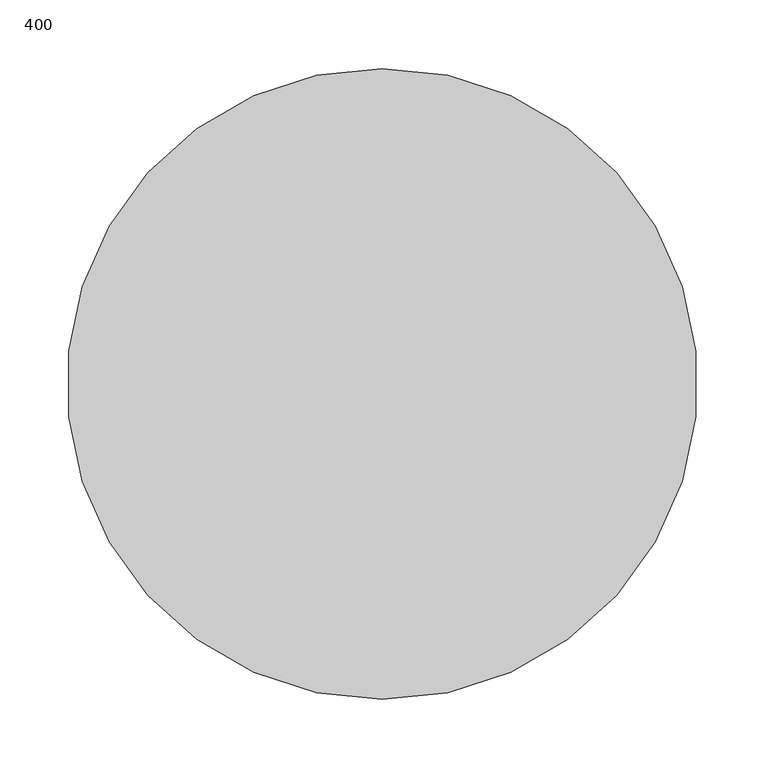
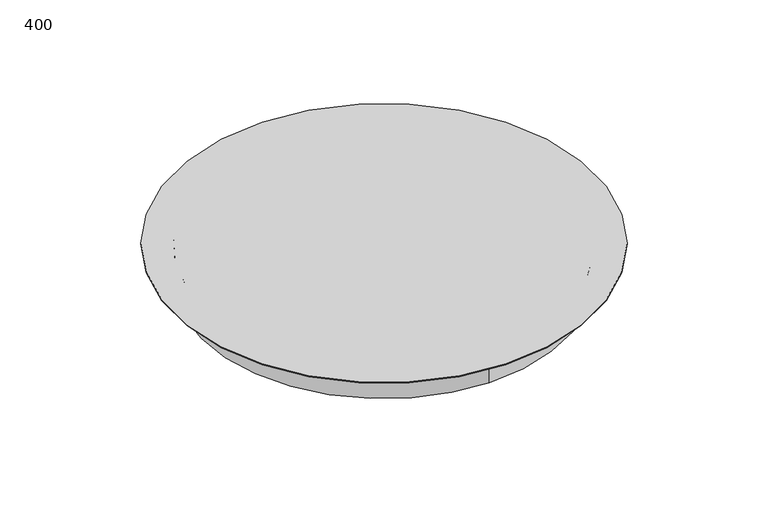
"""IFC4 building model written with IfcOpenShell, lengths in millimetres: duct fitting geometry, VE-Zagnieżdżone-Akcesorium-ParaForma-Harmann-DAF-Króciec_Przyłączeniowy : 400."""

import ifcopenshell
import ifcopenshell.guid

model = None  # the IFC model being written
_history = None  # IfcOwnerHistory: only IFC2X3 demands one
_inside = {}  # id of a spatial element -> (the spatial element, [elements in it])
_under = {}  # id of a project, library or spatial element -> (it, [spatial elements below it])
_declared = {}  # id of a project -> (the project, [libraries it declares])
_typed = {}  # id of a type object -> (the type object, [elements of that type])
_made_of = {}  # id of a material, layer set ... -> (it, [elements and type objects made of it])


def new_model(schema):
    """Start an empty IFC model of exactly this schema.

    Asked for "IFC4X3", IfcOpenShell would pick the latest addendum, in which some entities
    have other attributes; the version numbers below select the first issue.
    IFC2X3 requires an IfcOwnerHistory on every rooted entity: one is made here for all.
    """
    global model, _history
    if schema == "IFC4X3":
        model = ifcopenshell.file(schema_version=(4, 3, 0, 0))
    else:
        model = ifcopenshell.file(schema=schema)
    _inside.clear()
    _under.clear()
    _declared.clear()
    _typed.clear()
    _made_of.clear()
    _history = None
    if model.schema == "IFC2X3":
        org = make("IfcOrganization", Name="unknown")
        user = make(
            "IfcPersonAndOrganization",
            ThePerson=make("IfcPerson", FamilyName="unknown"),
            TheOrganization=org,
        )
        app = make(
            "IfcApplication",
            ApplicationDeveloper=org,
            Version="unknown",
            ApplicationFullName="unknown",
            ApplicationIdentifier="unknown",
        )
        _history = make(
            "IfcOwnerHistory",
            OwningUser=user,
            OwningApplication=app,
            ChangeAction="ADDED",
            CreationDate=0,
        )
    return model


def make(cls, **values):
    """One entity of the class cls with the attributes given. An attribute that is None is left unset."""
    return model.create_entity(
        cls, **{name: value for name, value in values.items() if value is not None}
    )


def rooted(cls, **values):
    """An entity with a GlobalId (a new one), such as an element, a storey or a relation."""
    return make(cls, GlobalId=ifcopenshell.guid.new(), OwnerHistory=_history, **values)


def si_unit(unit_type, name, prefix=None):
    """IfcSIUnit, for example si_unit("LENGTHUNIT", "METRE", prefix="MILLI")."""
    return make("IfcSIUnit", UnitType=unit_type, Prefix=prefix, Name=name)


def assignment(units):
    """IfcUnitAssignment: the units of a project."""
    return None if units is None else make("IfcUnitAssignment", Units=units)


def point(xyz):
    """IfcCartesianPoint."""
    return None if xyz is None else make("IfcCartesianPoint", Coordinates=xyz)


def direction(xyz):
    """IfcDirection."""
    return None if xyz is None else make("IfcDirection", DirectionRatios=xyz)


def frame(location, z_axis=None, x_axis=None):
    """IfcAxis2Placement3D, a coordinate frame: its origin and axes. An axis left out is left unset."""
    return make(
        "IfcAxis2Placement3D",
        Location=point(location),
        Axis=direction(z_axis),
        RefDirection=direction(x_axis),
    )


def frame_2d(location, x_axis=None):
    """IfcAxis2Placement2D, a coordinate frame in the plane: its origin and x axis."""
    return make(
        "IfcAxis2Placement2D", Location=point(location), RefDirection=direction(x_axis)
    )


def origin():
    """The frame at (0, 0, 0) with its axes left unset."""
    return frame((0.0, 0.0, 0.0))


def origin_2d():
    """The frame at (0, 0) in the plane with its x axis left unset."""
    return frame_2d((0.0, 0.0))


def place(relative_to, where):
    """IfcLocalPlacement: puts the frame where relative to a parent placement (None: the world)."""
    return make(
        "IfcLocalPlacement", PlacementRelTo=relative_to, RelativePlacement=where
    )


def context(
    kind, dimensions, precision=None, world=None, true_north=None, identifier=None
):
    """IfcGeometricRepresentationContext, for example the 3D "Model" context."""
    return make(
        "IfcGeometricRepresentationContext",
        ContextIdentifier=identifier,
        ContextType=kind,
        CoordinateSpaceDimension=dimensions,
        Precision=precision,
        WorldCoordinateSystem=world,
        TrueNorth=true_north,
    )


def project(units=None, contexts=None):
    """IfcProject with its units and contexts."""
    return rooted(
        "IfcProject",
        Name="project",
        RepresentationContexts=contexts,
        UnitsInContext=assignment(units),
    )


def spatial(cls, under=None, at=None, **own):
    """A site, building, storey or space (cls), placed at a placement, below another one or the project."""
    s = rooted(cls, ObjectPlacement=at, **own)
    if under is not None:
        _under.setdefault(under.id(), (under, []))[1].append(s)
    return s


def circle_curve(where, radius):
    """IfcCircle in the frame where."""
    return make("IfcCircle", Position=where, Radius=radius)


def trimmed(basis, trim1, trim2, sense, master):
    """IfcTrimmedCurve: the piece of a basis curve between two trims."""
    return make(
        "IfcTrimmedCurve",
        BasisCurve=basis,
        Trim1=trim1,
        Trim2=trim2,
        SenseAgreement=sense,
        MasterRepresentation=master,
    )


def segment(curve, same_sense, transition):
    """IfcCompositeCurveSegment."""
    return make(
        "IfcCompositeCurveSegment",
        Transition=transition,
        SameSense=same_sense,
        ParentCurve=curve,
    )


def composite_curve(segments, self_intersect=None):
    """IfcCompositeCurve: segments joined end to end."""
    return make("IfcCompositeCurve", Segments=segments, SelfIntersect=self_intersect)


def outline(outer, holes=None, kind="AREA"):
    """IfcArbitraryClosedProfileDef: a profile drawn as a closed curve; with holes, ...WithVoids."""
    if holes is None:
        return make("IfcArbitraryClosedProfileDef", ProfileType=kind, OuterCurve=outer)
    return make(
        "IfcArbitraryProfileDefWithVoids",
        ProfileType=kind,
        OuterCurve=outer,
        InnerCurves=holes,
    )


def extrude(swept, where, along, depth):
    """IfcExtrudedAreaSolid: the profile swept, set in the frame where, extruded along a direction by depth."""
    return make(
        "IfcExtrudedAreaSolid",
        SweptArea=swept,
        Position=where,
        ExtrudedDirection=direction(along),
        Depth=depth,
    )


def shape(context_of_items, identifier, shape_type, items):
    """IfcShapeRepresentation: the items that make up one representation, for example the "Body"."""
    return make(
        "IfcShapeRepresentation",
        ContextOfItems=context_of_items,
        RepresentationIdentifier=identifier,
        RepresentationType=shape_type,
        Items=items,
    )


def source(mapping_origin, context_of_items, identifier, shape_type, items):
    """IfcRepresentationMap: a shape defined once, which mapped items show again and again."""
    return make(
        "IfcRepresentationMap",
        MappingOrigin=mapping_origin,
        MappedRepresentation=shape(context_of_items, identifier, shape_type, items),
    )


def transform(
    local_origin,
    x_axis=None,
    y_axis=None,
    z_axis=None,
    scale=None,
    scale2=None,
    scale3=None,
    uniform=True,
):
    """IfcCartesianTransformationOperator3D, or its non-uniform kind. x_axis, y_axis, z_axis: its Axis1, 2, 3."""
    if uniform:
        return make(
            "IfcCartesianTransformationOperator3D",
            Axis1=direction(x_axis),
            Axis2=direction(y_axis),
            LocalOrigin=point(local_origin),
            Scale=scale,
            Axis3=direction(z_axis),
        )
    return make(
        "IfcCartesianTransformationOperator3DnonUniform",
        Axis1=direction(x_axis),
        Axis2=direction(y_axis),
        LocalOrigin=point(local_origin),
        Scale=scale,
        Axis3=direction(z_axis),
        Scale2=scale2,
        Scale3=scale3,
    )


def mapped(mapping_source, mapping_target):
    """IfcMappedItem: shows the shape of a source again, moved by a transform."""
    return make(
        "IfcMappedItem", MappingSource=mapping_source, MappingTarget=mapping_target
    )


def made_of(thing, what):
    """Note that an element or type object is made of a material, layer set ...; save() writes the relation."""
    if what is not None:
        _made_of.setdefault(what.id(), (what, []))[1].append(thing)
    return thing


def element(
    cls,
    number,
    at=None,
    inside=None,
    cuts=None,
    type_object=None,
    material=None,
    context=None,
    identifier="Body",
    shape_type=None,
    held_by="IfcProductDefinitionShape",
    body=None,
    shapes=None,
    **own,
):
    """One element of the class cls, such as IfcWall. Its Tag is "e" and its number.

    at: its placement. inside: the storey or other place that contains it. cuts: it is an
    opening in that element (IfcRelVoidsElement). A single representation is given by context,
    identifier, shape_type and body (its items); several are given by shapes. held_by: the class
    of the entity that holds the representations. save() writes the other relations.
    """
    e = rooted(cls, Tag="e%d" % number, ObjectPlacement=at, **own)
    if body is not None:
        shapes = [shape(context, identifier, shape_type, body)]
    if shapes is not None:
        e.Representation = make(held_by, Representations=shapes)
    if inside is not None:
        _inside.setdefault(inside.id(), (inside, []))[1].append(e)
    if cuts is not None:
        rooted(
            "IfcRelVoidsElement", RelatingBuildingElement=cuts, RelatedOpeningElement=e
        )
    if type_object is not None:
        _typed.setdefault(type_object.id(), (type_object, []))[1].append(e)
    return made_of(e, material)


def aggregate(whole, parts):
    """IfcRelAggregates: a whole, such as a stair, and the parts it consists of."""
    return rooted("IfcRelAggregates", RelatingObject=whole, RelatedObjects=parts)


def save(model, path):
    """Write the relations noted so far, then the file.

    IfcRelAggregates (storeys below a building ...), IfcRelContainedInSpatialStructure (elements
    in a storey), IfcRelDefinesByType, IfcRelAssociatesMaterial and IfcRelDeclares: one each for
    every whole, place, type object, material and project.
    """
    for whole, parts in _under.values():
        aggregate(whole, parts)
    for where, things in _inside.values():
        rooted(
            "IfcRelContainedInSpatialStructure",
            RelatedElements=things,
            RelatingStructure=where,
        )
    for kind, things in _typed.values():
        rooted("IfcRelDefinesByType", RelatedObjects=things, RelatingType=kind)
    for what, things in _made_of.values():
        rooted("IfcRelAssociatesMaterial", RelatedObjects=things, RelatingMaterial=what)
    for by, libraries in _declared.values():
        rooted("IfcRelDeclares", RelatingContext=by, RelatedDefinitions=libraries)
    model.write(path)


def duct_fitting_400_42e1e227(model_context):
    return source(origin(), model_context, "Body", "SweptSolid", [
        extrude(outline(composite_curve([segment(trimmed(circle_curve(origin_2d(), 199.5), [point((0.0, -199.5))], [point((0.0, 199.5))], False, "CARTESIAN"), True, "CONTINUOUS"), segment(trimmed(circle_curve(origin_2d(), 199.5), [point((0.0, 199.5))], [point((0.0, -199.5))], False, "CARTESIAN"), True, "CONTINUOUS")], self_intersect=False)), frame((0.0, 0.0, -40.0), z_axis=(0.0, 0.0, 1.0), x_axis=(1.0, 0.0, 0.0)), (0.0, 0.0, 1.0), 39.0),
        extrude(outline(composite_curve([segment(trimmed(circle_curve(origin_2d(), 230.0), [point((0.0, -230.0))], [point((0.0, 230.0))], False, "CARTESIAN"), True, "CONTINUOUS"), segment(trimmed(circle_curve(origin_2d(), 230.0), [point((0.0, 230.0))], [point((0.0, -230.0))], False, "CARTESIAN"), True, "CONTINUOUS")], self_intersect=False)), frame((0.0, 0.0, -1.0), z_axis=(0.0, 0.0, 1.0), x_axis=(1.0, 0.0, 0.0)), (0.0, 0.0, 1.0), 1.0),
    ])


if __name__ == "__main__":
    model = new_model("IFC4")
    model_context = context("Model", 3, world=origin())
    ifc_project = project(units=[si_unit("LENGTHUNIT", "METRE", prefix="MILLI")], contexts=[model_context])
    site = spatial("IfcSite", under=ifc_project)
    building = spatial("IfcBuilding", under=site)
    placement = place(None, origin())
    duct_fitting_400_shape = duct_fitting_400_42e1e227(model_context)
    element("IfcDuctFitting", 1, ObjectType="VE-Zagnieżdżone-Akcesorium-ParaForma-Harmann-DAF-Króciec_Przyłączeniowy : 400", at=placement, inside=building, context=model_context, shape_type="MappedRepresentation", body=[
        mapped(duct_fitting_400_shape, transform((0.0, 0.0, 0.0), x_axis=(1.0, 0.0, 0.0), y_axis=(0.0, 1.0, 0.0), z_axis=(0.0, 0.0, 1.0))),
    ])
    save(model, "model.ifc")
